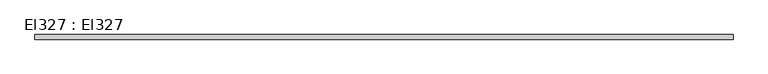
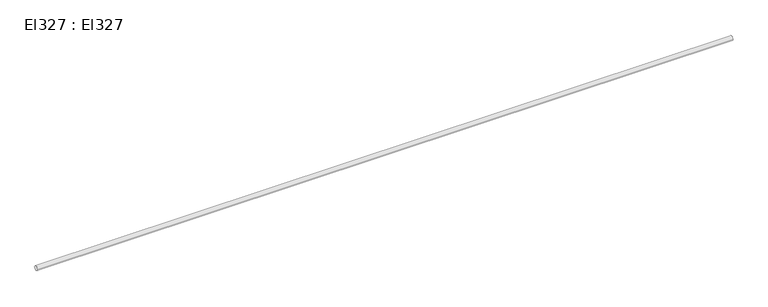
"""IFC4 building model written with IfcOpenShell, lengths in millimetres: cable carrier segment geometry, El327 : El327."""

from ifc_helpers import new_model, si_unit, point, frame, frame_2d, origin, place, context, project, spatial, circle_curve, trimmed, segment, composite_curve, outline, extrude, source, transform, mapped, element, save


def el327_el327_16c3ac4a(model_context):
    return source(origin(), model_context, "Body", "SweptSolid", [
        extrude(outline(composite_curve([segment(trimmed(circle_curve(frame_2d((6769.5, 2950.0)), 9.5), [point((6760.0, 2950.0))], [point((6779.0, 2950.0))], False, "CARTESIAN"), True, "CONTINUOUS"), segment(trimmed(circle_curve(frame_2d((6769.5, 2950.0)), 9.5), [point((6779.0, 2950.0))], [point((6760.0, 2950.0))], False, "CARTESIAN"), True, "CONTINUOUS")], self_intersect=False)), frame((6842.76, 0.0, 0.0), z_axis=(1.0, 0.0, 0.0), x_axis=(0.0, 1.0, 0.0)), (0.0, 0.0, 1.0), 2883.33),
    ])


if __name__ == "__main__":
    model = new_model("IFC4")
    model_context = context("Model", 3, world=origin())
    ifc_project = project(units=[si_unit("LENGTHUNIT", "METRE", prefix="MILLI")], contexts=[model_context])
    site = spatial("IfcSite", under=ifc_project)
    building = spatial("IfcBuilding", under=site)
    placement = place(None, origin())
    el327_el327_shape = el327_el327_16c3ac4a(model_context)
    element("IfcCableCarrierSegment", 1, ObjectType="El327 : El327", at=placement, inside=building, context=model_context, shape_type="MappedRepresentation", body=[
        mapped(el327_el327_shape, transform((0.0, 0.0, 0.0), x_axis=(1.0, 0.0, 0.0), y_axis=(0.0, 1.0, 0.0), z_axis=(0.0, 0.0, 1.0))),
    ])
    save(model, "model.ifc")
